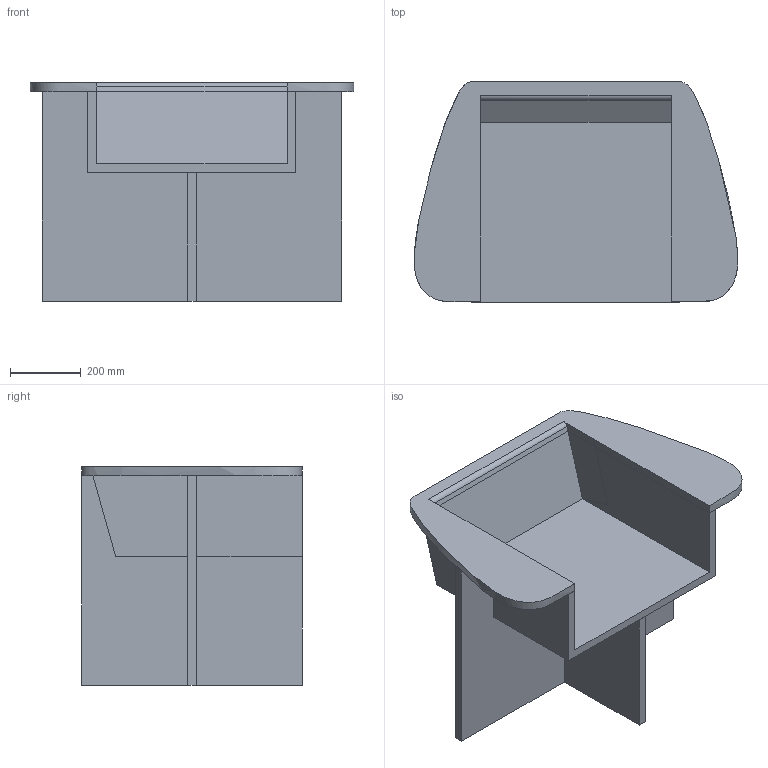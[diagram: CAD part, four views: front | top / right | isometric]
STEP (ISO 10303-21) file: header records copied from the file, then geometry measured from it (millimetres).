
FILE_DESCRIPTION(/* description */ (''),/* implementation_level */ '2;1');
FILE_NAME(/* name */ 'Brutus Lounge',/* time_stamp */ '2024-09-30T11:36:15+02:00',/* author */ (''),/* organization */ (''),/* preprocessor_version */ 'ST-DEVELOPER v16.5',/* originating_system */ 'Rhino 7.37',/* authorisation */ '');
FILE_SCHEMA (('CONFIG_CONTROL_DESIGN'));
Length unit declared in the file: millimetre
Products named in the file (1): Document
Bounding box: 917.85 x 625 x 620 mm (x, y, z)
Volume: 35891529.1 mm3; surface area: 3269305.1 mm2
Topology: 5 solids, 5 shells, 45 faces, 107 edges, 72 vertices
Faces by surface type: bspline 45
Entity records: 2720 total; most frequent: CARTESIAN_POINT 1194, B_SPLINE_CURVE_WITH_KNOTS 319, ORIENTED_EDGE 214, PCURVE 214, DEFINITIONAL_REPRESENTATION 214, SURFACE_CURVE 107, EDGE_CURVE 107, VERTEX_POINT 72
